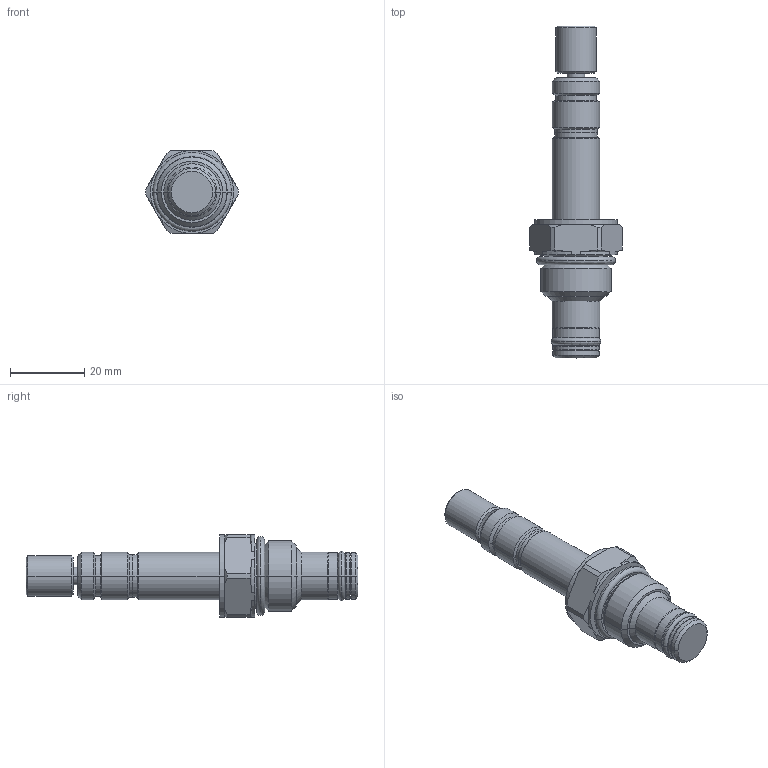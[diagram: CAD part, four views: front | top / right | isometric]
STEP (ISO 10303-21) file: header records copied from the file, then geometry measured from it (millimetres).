
FILE_DESCRIPTION((''),'2;1');
FILE_NAME('5009025_SW0002','2009-02-24T',('JCS'),(''),'PRO/ENGINEER BY PARAMETRIC TECHNOLOGY CORPORATION, 2008010','PRO/ENGINEER BY PARAMETRIC TECHNOLOGY CORPORATION, 2008010','');
FILE_SCHEMA(('CONFIG_CONTROL_DESIGN'));
Length unit declared in the file: inch
Products named in the file (1): 5009025_SW0002
Bounding box: 24.94 x 89.31 x 22.23 mm (x, y, z)
Volume: 14631.8 mm3; surface area: 6267.8 mm2
Topology: 4 solids, 5 shells, 155 faces, 337 edges, 196 vertices
Faces by surface type: cylinder 53, cone 48, plane 24, revolution 16, torus 14
Entity records: 4592 total; most frequent: CARTESIAN_POINT 1124, DIRECTION 764, ORIENTED_EDGE 674, EDGE_CURVE 337, AXIS2_PLACEMENT_3D 316, VERTEX_POINT 196, CIRCLE 177, EDGE_LOOP 165
